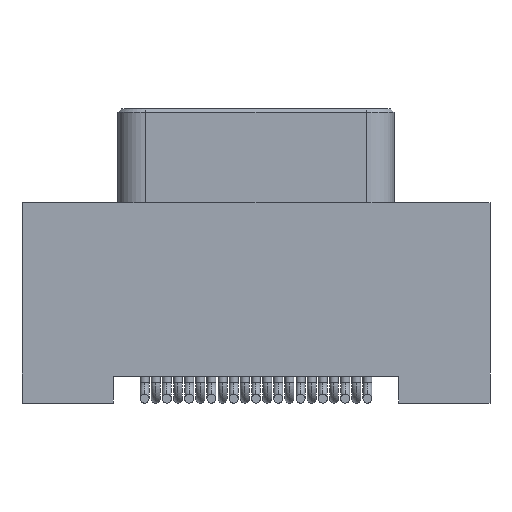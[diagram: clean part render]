
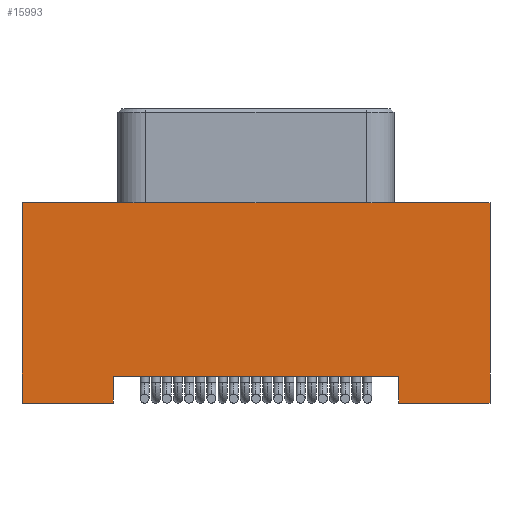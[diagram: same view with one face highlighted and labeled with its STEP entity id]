
A CAD part, front view. The second image highlights one B-rep face of the part: STEP entity #15993.
In plain terms, the highlighted planar face has unit normal (0, -1, 0).
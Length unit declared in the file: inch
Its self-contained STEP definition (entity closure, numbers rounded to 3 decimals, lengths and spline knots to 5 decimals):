
#957 = DIRECTION ( 'NONE',  ( 0., 0., -1. ) ) ;
#1028 = VECTOR ( 'NONE', #8360, 39.37008 ) ;
#1693 = ORIENTED_EDGE ( 'NONE', *, *, #11911, .F. ) ;
#2390 = CARTESIAN_POINT ( 'NONE',  ( -0.2625, -0.0575, -0.33 ) ) ;
#2793 = VERTEX_POINT ( 'NONE', #27996 ) ;
#5485 = LINE ( 'NONE', #10897, #22984 ) ;
#6528 = ORIENTED_EDGE ( 'NONE', *, *, #27639, .T. ) ;
#7085 = ORIENTED_EDGE ( 'NONE', *, *, #26544, .F. ) ;
#7231 = VERTEX_POINT ( 'NONE', #13588 ) ;
#7393 = ORIENTED_EDGE ( 'NONE', *, *, #13152, .T. ) ;
#7475 = CARTESIAN_POINT ( 'NONE',  ( 0.2625, -0.0575, -0.33 ) ) ;
#7537 = DIRECTION ( 'NONE',  ( 0., 0., -1. ) ) ;
#7809 = VERTEX_POINT ( 'NONE', #2390 ) ;
#8360 = DIRECTION ( 'NONE',  ( -1., 0., 0. ) ) ;
#8660 = CARTESIAN_POINT ( 'NONE',  ( -0.2625, -0.0575, -0.33 ) ) ;
#10469 = FACE_OUTER_BOUND ( 'NONE', #21905, .T. ) ;
#10897 = CARTESIAN_POINT ( 'NONE',  ( -0.2625, -0.0575, -0.33 ) ) ;
#10972 = EDGE_CURVE ( 'NONE', #20792, #14965, #24043, .T. ) ;
#11340 = VERTEX_POINT ( 'NONE', #13207 ) ;
#11712 = VERTEX_POINT ( 'NONE', #18858 ) ;
#11911 = EDGE_CURVE ( 'NONE', #7809, #11712, #5485, .T. ) ;
#12385 = VECTOR ( 'NONE', #14198, 39.37008 ) ;
#12655 = LINE ( 'NONE', #21499, #1028 ) ;
#13152 = EDGE_CURVE ( 'NONE', #2793, #20792, #27382, .T. ) ;
#13207 = CARTESIAN_POINT ( 'NONE',  ( 0.16, -0.0575, -0.3 ) ) ;
#13250 = DIRECTION ( 'NONE',  ( -1., 0., 0. ) ) ;
#13506 = EDGE_CURVE ( 'NONE', #16848, #7231, #28028, .T. ) ;
#13588 = CARTESIAN_POINT ( 'NONE',  ( -0.16, -0.0575, -0.33 ) ) ;
#13719 = ORIENTED_EDGE ( 'NONE', *, *, #25923, .T. ) ;
#14069 = DIRECTION ( 'NONE',  ( 0., -1., 0. ) ) ;
#14198 = DIRECTION ( 'NONE',  ( 0., 0., 1. ) ) ;
#14965 = VERTEX_POINT ( 'NONE', #21314 ) ;
#15143 = CARTESIAN_POINT ( 'NONE',  ( -0.2625, -0.0575, -0.33 ) ) ;
#15708 = VECTOR ( 'NONE', #17335, 39.37008 ) ;
#15831 = LINE ( 'NONE', #27274, #26807 ) ;
#15993 = ADVANCED_FACE ( 'NONE', ( #10469 ), #18372, .T. ) ;
#16113 = VECTOR ( 'NONE', #13250, 39.37008 ) ;
#16382 = VECTOR ( 'NONE', #16613, 39.37008 ) ;
#16613 = DIRECTION ( 'NONE',  ( 0., 0., -1. ) ) ;
#16807 = LINE ( 'NONE', #26561, #16113 ) ;
#16848 = VERTEX_POINT ( 'NONE', #22264 ) ;
#17335 = DIRECTION ( 'NONE',  ( 1., 0., 0. ) ) ;
#18372 = PLANE ( 'NONE',  #27753 ) ;
#18746 = VECTOR ( 'NONE', #28379, 39.37008 ) ;
#18858 = CARTESIAN_POINT ( 'NONE',  ( -0.2625, -0.0575, -0.105 ) ) ;
#20792 = VERTEX_POINT ( 'NONE', #25445 ) ;
#21314 = CARTESIAN_POINT ( 'NONE',  ( 0.2625, -0.0575, -0.105 ) ) ;
#21499 = CARTESIAN_POINT ( 'NONE',  ( 0.16, -0.0575, -0.3 ) ) ;
#21905 = EDGE_LOOP ( 'NONE', ( #28057, #7393, #25714, #13719, #1693, #6528, #24150, #7085 ) ) ;
#22264 = CARTESIAN_POINT ( 'NONE',  ( -0.16, -0.0575, -0.3 ) ) ;
#22984 = VECTOR ( 'NONE', #26203, 39.37008 ) ;
#24043 = LINE ( 'NONE', #7475, #12385 ) ;
#24150 = ORIENTED_EDGE ( 'NONE', *, *, #13506, .F. ) ;
#24327 = EDGE_CURVE ( 'NONE', #11340, #2793, #15831, .T. ) ;
#24576 = LINE ( 'NONE', #8660, #18746 ) ;
#25425 = CARTESIAN_POINT ( 'NONE',  ( -0.16, -0.0575, -0.3 ) ) ;
#25445 = CARTESIAN_POINT ( 'NONE',  ( 0.2625, -0.0575, -0.33 ) ) ;
#25714 = ORIENTED_EDGE ( 'NONE', *, *, #10972, .T. ) ;
#25923 = EDGE_CURVE ( 'NONE', #14965, #11712, #16807, .T. ) ;
#26203 = DIRECTION ( 'NONE',  ( 0., 0., 1. ) ) ;
#26544 = EDGE_CURVE ( 'NONE', #11340, #16848, #12655, .T. ) ;
#26561 = CARTESIAN_POINT ( 'NONE',  ( -0.2625, -0.0575, -0.105 ) ) ;
#26807 = VECTOR ( 'NONE', #7537, 39.37008 ) ;
#27189 = CARTESIAN_POINT ( 'NONE',  ( -0.2625, -0.0575, -0.33 ) ) ;
#27274 = CARTESIAN_POINT ( 'NONE',  ( 0.16, -0.0575, -0.3 ) ) ;
#27382 = LINE ( 'NONE', #15143, #15708 ) ;
#27639 = EDGE_CURVE ( 'NONE', #7809, #7231, #24576, .T. ) ;
#27753 = AXIS2_PLACEMENT_3D ( 'NONE', #27189, #14069, #957 ) ;
#27996 = CARTESIAN_POINT ( 'NONE',  ( 0.16, -0.0575, -0.33 ) ) ;
#28028 = LINE ( 'NONE', #25425, #16382 ) ;
#28057 = ORIENTED_EDGE ( 'NONE', *, *, #24327, .T. ) ;
#28379 = DIRECTION ( 'NONE',  ( 1., 0., 0. ) ) ;
